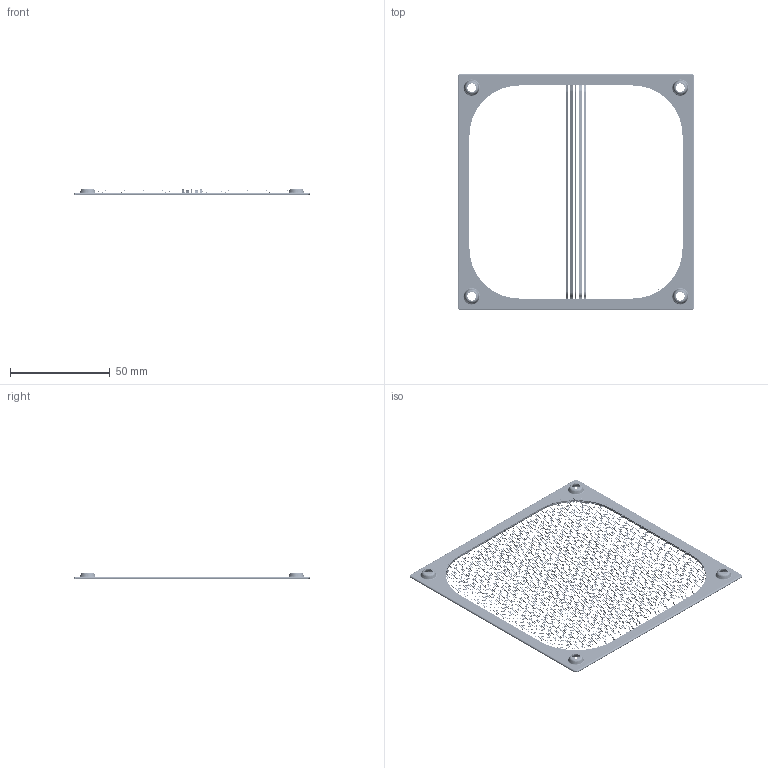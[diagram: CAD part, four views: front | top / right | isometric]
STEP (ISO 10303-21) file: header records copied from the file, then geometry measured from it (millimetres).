
FILE_DESCRIPTION (( 'STEP AP214' ), '1' );
FILE_NAME ('AFM-120M.STEP', '2018-09-05T07:44:18', ( '' ), ( '' ), 'SwSTEP 2.0', 'SolidWorks 2016', '' );
FILE_SCHEMA (( 'AUTOMOTIVE_DESIGN' ));
Length unit declared in the file: millimetre
Products named in the file (3): AFM-120M-MESH; AFM-120M-FRAME; AFM-120M
Assembly tree (2 placements, depth 2):
  AFM-120M
    AFM-120M-FRAME
    AFM-120M-MESH
Bounding box: 118.87 x 118.87 x 3.5 mm (x, y, z)
Volume: 3879.6 mm3; surface area: 21311.3 mm2
Topology: 364 solids, 369 shells, 20223 faces, 39820 edges, 20312 vertices
Faces by surface type: torus 18545, cylinder 1137, plane 517, cone 16, bspline 8
Entity records: 553693 total; most frequent: DIRECTION 117188, CARTESIAN_POINT 111855, ORIENTED_EDGE 79652, AXIS2_PLACEMENT_3D 58103, EDGE_CURVE 39826, CIRCLE 37846, VERTEX_POINT 20312, EDGE_LOOP 20278
